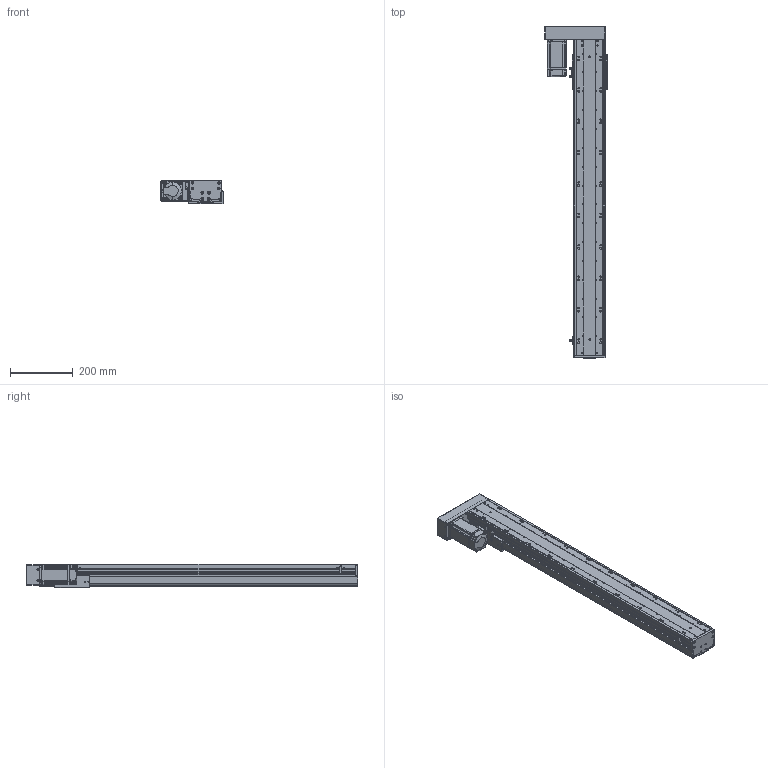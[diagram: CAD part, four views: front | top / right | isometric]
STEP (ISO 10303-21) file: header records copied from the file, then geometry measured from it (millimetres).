
FILE_DESCRIPTION (( 'STEP AP203' ), '1' );
FILE_NAME ('RY100FBS-L1610-300-LK(15双轨）.SLDASM_800.step', '2021-02-23T01:49:34', ( '盈信电脑' ), ( '东莞市道滘镇水果街19号' ), 'SwSTEP 2.0', 'SolidWorks 2012', '' );
FILE_SCHEMA (( 'CONFIG_CONTROL_DESIGN' ));
Length unit declared in the file: millimetre
Products named in the file (14): RY100FBS-酘衵殏萇儂欶; RY100FBS-L1610-300-LK(15双轨）.SLDASM_800; RY100FBS-酘衵殏萇儂啣; 侂狟400W侜督萇儂; RY100FBS-后盖板(15双轨）; 15; RY100FBS-铝滑块（16丝杆）; 滅袉蝶18-15; 覜茼ん672; RY100FBS-嫖萇覜茼え; RY100FBS-转折支撑座（15双轨）; 滅袉蝶18-24; RY100FBS-300蛌殏菁釱-LK_800; RY100FBS-300蛌殏奻裔啣-LK_800
Assembly tree (15 placements, depth 3):
  RY100FBS-L1610-300-LK(15双轨）.SLDASM_800
    RY100FBS-300蛌殏菁釱-LK_800
    RY100FBS-300蛌殏奻裔啣-LK_800
    RY100FBS-转折支撑座（15双轨）
    滅袉蝶18-24
    滅袉蝶18-15
    RY100FBS-铝滑块（16丝杆）
    覜茼ん672  x3
    RY100FBS-嫖萇覜茼え
    侂狟400W侜督萇儂
      15
    RY100FBS-后盖板(15双轨）
    RY100FBS-酘衵殏萇儂啣
    RY100FBS-酘衵殏萇儂欶
Bounding box: 198.75 x 1057 x 74 mm (x, y, z)
Volume: 2760566.7 mm3; surface area: 1023059.9 mm2
Topology: 14 solids, 14 shells, 1681 faces, 4790 edges, 3110 vertices
Faces by surface type: cylinder 825, plane 704, cone 126, bspline 26
Entity records: 53397 total; most frequent: CARTESIAN_POINT 11324, DIRECTION 8593, ORIENTED_EDGE 8456, EDGE_CURVE 4228, AXIS2_PLACEMENT_3D 3119, VERTEX_POINT 2790, VECTOR 2355, LINE 2355
